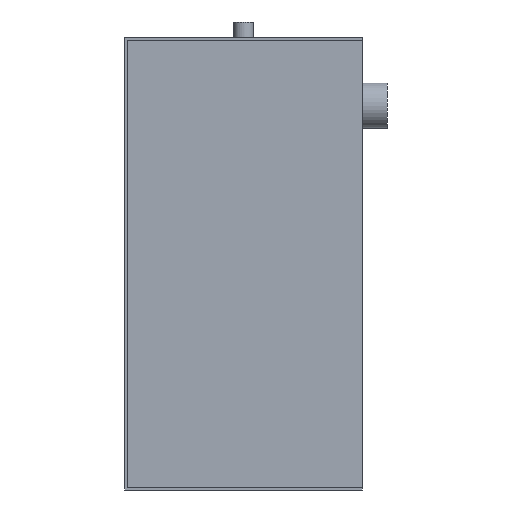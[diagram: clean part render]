
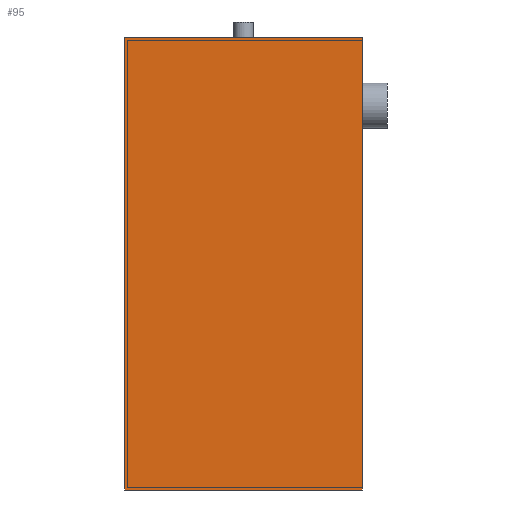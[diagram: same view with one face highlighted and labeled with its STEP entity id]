
A CAD part, left-side view. The second image highlights one B-rep face of the part: STEP entity #95.
In plain terms, the highlighted planar face has unit normal (-1, 0, 0).
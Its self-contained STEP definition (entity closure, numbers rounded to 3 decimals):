
#95 = ADVANCED_FACE('',(#96),#110,.F.);
#96 = FACE_BOUND('',#97,.F.);
#97 = EDGE_LOOP('',(#98,#133,#161,#189));
#98 = ORIENTED_EDGE('',*,*,#99,.F.);
#99 = EDGE_CURVE('',#100,#102,#104,.T.);
#100 = VERTEX_POINT('',#101);
#101 = CARTESIAN_POINT('',(-420.,-700.,-720.));
#102 = VERTEX_POINT('',#103);
#103 = CARTESIAN_POINT('',(-420.,-700.,-320.));
#104 = SURFACE_CURVE('',#105,(#109,#121),.PCURVE_S1.);
#105 = LINE('',#106,#107);
#106 = CARTESIAN_POINT('',(-420.,-700.,-720.));
#107 = VECTOR('',#108,1.);
#108 = DIRECTION('',(0.,0.,1.));
#109 = PCURVE('',#110,#115);
#110 = PLANE('',#111);
#111 = AXIS2_PLACEMENT_3D('',#112,#113,#114);
#112 = CARTESIAN_POINT('',(-420.,-700.,-720.));
#113 = DIRECTION('',(1.,0.,-0.));
#114 = DIRECTION('',(0.,0.,1.));
#115 = DEFINITIONAL_REPRESENTATION('',(#116),#120);
#116 = LINE('',#117,#118);
#117 = CARTESIAN_POINT('',(0.,0.));
#118 = VECTOR('',#119,1.);
#119 = DIRECTION('',(1.,0.));
#120 = ( GEOMETRIC_REPRESENTATION_CONTEXT(2) 
PARAMETRIC_REPRESENTATION_CONTEXT() REPRESENTATION_CONTEXT('2D SPACE',''
  ) );
#121 = PCURVE('',#122,#127);
#122 = PLANE('',#123);
#123 = AXIS2_PLACEMENT_3D('',#124,#125,#126);
#124 = CARTESIAN_POINT('',(-420.,-700.,-720.));
#125 = DIRECTION('',(-0.,1.,0.));
#126 = DIRECTION('',(0.,0.,1.));
#127 = DEFINITIONAL_REPRESENTATION('',(#128),#132);
#128 = LINE('',#129,#130);
#129 = CARTESIAN_POINT('',(0.,0.));
#130 = VECTOR('',#131,1.);
#131 = DIRECTION('',(1.,0.));
#132 = ( GEOMETRIC_REPRESENTATION_CONTEXT(2) 
PARAMETRIC_REPRESENTATION_CONTEXT() REPRESENTATION_CONTEXT('2D SPACE',''
  ) );
#133 = ORIENTED_EDGE('',*,*,#134,.T.);
#134 = EDGE_CURVE('',#100,#135,#137,.T.);
#135 = VERTEX_POINT('',#136);
#136 = CARTESIAN_POINT('',(-420.,-490.,-720.));
#137 = SURFACE_CURVE('',#138,(#142,#149),.PCURVE_S1.);
#138 = LINE('',#139,#140);
#139 = CARTESIAN_POINT('',(-420.,-700.,-720.));
#140 = VECTOR('',#141,1.);
#141 = DIRECTION('',(-0.,1.,0.));
#142 = PCURVE('',#110,#143);
#143 = DEFINITIONAL_REPRESENTATION('',(#144),#148);
#144 = LINE('',#145,#146);
#145 = CARTESIAN_POINT('',(0.,0.));
#146 = VECTOR('',#147,1.);
#147 = DIRECTION('',(0.,-1.));
#148 = ( GEOMETRIC_REPRESENTATION_CONTEXT(2) 
PARAMETRIC_REPRESENTATION_CONTEXT() REPRESENTATION_CONTEXT('2D SPACE',''
  ) );
#149 = PCURVE('',#150,#155);
#150 = PLANE('',#151);
#151 = AXIS2_PLACEMENT_3D('',#152,#153,#154);
#152 = CARTESIAN_POINT('',(-420.,-700.,-720.));
#153 = DIRECTION('',(0.,0.,1.));
#154 = DIRECTION('',(1.,0.,-0.));
#155 = DEFINITIONAL_REPRESENTATION('',(#156),#160);
#156 = LINE('',#157,#158);
#157 = CARTESIAN_POINT('',(0.,0.));
#158 = VECTOR('',#159,1.);
#159 = DIRECTION('',(0.,1.));
#160 = ( GEOMETRIC_REPRESENTATION_CONTEXT(2) 
PARAMETRIC_REPRESENTATION_CONTEXT() REPRESENTATION_CONTEXT('2D SPACE',''
  ) );
#161 = ORIENTED_EDGE('',*,*,#162,.T.);
#162 = EDGE_CURVE('',#135,#163,#165,.T.);
#163 = VERTEX_POINT('',#164);
#164 = CARTESIAN_POINT('',(-420.,-490.,-320.));
#165 = SURFACE_CURVE('',#166,(#170,#177),.PCURVE_S1.);
#166 = LINE('',#167,#168);
#167 = CARTESIAN_POINT('',(-420.,-490.,-720.));
#168 = VECTOR('',#169,1.);
#169 = DIRECTION('',(0.,0.,1.));
#170 = PCURVE('',#110,#171);
#171 = DEFINITIONAL_REPRESENTATION('',(#172),#176);
#172 = LINE('',#173,#174);
#173 = CARTESIAN_POINT('',(0.,-210.));
#174 = VECTOR('',#175,1.);
#175 = DIRECTION('',(1.,0.));
#176 = ( GEOMETRIC_REPRESENTATION_CONTEXT(2) 
PARAMETRIC_REPRESENTATION_CONTEXT() REPRESENTATION_CONTEXT('2D SPACE',''
  ) );
#177 = PCURVE('',#178,#183);
#178 = PLANE('',#179);
#179 = AXIS2_PLACEMENT_3D('',#180,#181,#182);
#180 = CARTESIAN_POINT('',(-420.,-490.,-720.));
#181 = DIRECTION('',(-0.,1.,0.));
#182 = DIRECTION('',(0.,0.,1.));
#183 = DEFINITIONAL_REPRESENTATION('',(#184),#188);
#184 = LINE('',#185,#186);
#185 = CARTESIAN_POINT('',(0.,0.));
#186 = VECTOR('',#187,1.);
#187 = DIRECTION('',(1.,0.));
#188 = ( GEOMETRIC_REPRESENTATION_CONTEXT(2) 
PARAMETRIC_REPRESENTATION_CONTEXT() REPRESENTATION_CONTEXT('2D SPACE',''
  ) );
#189 = ORIENTED_EDGE('',*,*,#190,.F.);
#190 = EDGE_CURVE('',#102,#163,#191,.T.);
#191 = SURFACE_CURVE('',#192,(#196,#203),.PCURVE_S1.);
#192 = LINE('',#193,#194);
#193 = CARTESIAN_POINT('',(-420.,-700.,-320.));
#194 = VECTOR('',#195,1.);
#195 = DIRECTION('',(-0.,1.,0.));
#196 = PCURVE('',#110,#197);
#197 = DEFINITIONAL_REPRESENTATION('',(#198),#202);
#198 = LINE('',#199,#200);
#199 = CARTESIAN_POINT('',(400.,0.));
#200 = VECTOR('',#201,1.);
#201 = DIRECTION('',(0.,-1.));
#202 = ( GEOMETRIC_REPRESENTATION_CONTEXT(2) 
PARAMETRIC_REPRESENTATION_CONTEXT() REPRESENTATION_CONTEXT('2D SPACE',''
  ) );
#203 = PCURVE('',#204,#209);
#204 = PLANE('',#205);
#205 = AXIS2_PLACEMENT_3D('',#206,#207,#208);
#206 = CARTESIAN_POINT('',(-420.,-700.,-320.));
#207 = DIRECTION('',(0.,0.,1.));
#208 = DIRECTION('',(1.,0.,-0.));
#209 = DEFINITIONAL_REPRESENTATION('',(#210),#214);
#210 = LINE('',#211,#212);
#211 = CARTESIAN_POINT('',(0.,0.));
#212 = VECTOR('',#213,1.);
#213 = DIRECTION('',(0.,1.));
#214 = ( GEOMETRIC_REPRESENTATION_CONTEXT(2) 
PARAMETRIC_REPRESENTATION_CONTEXT() REPRESENTATION_CONTEXT('2D SPACE',''
  ) );
